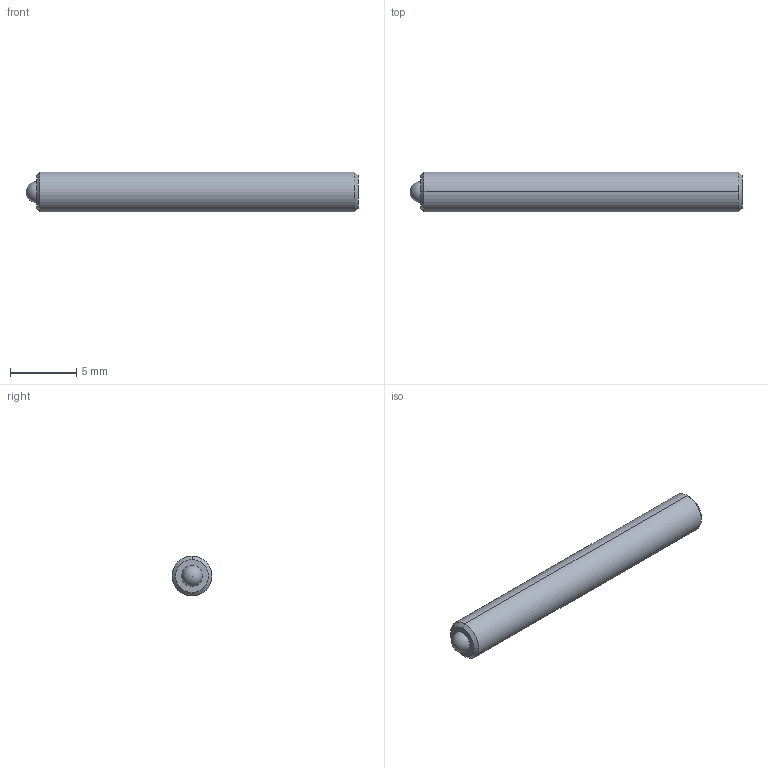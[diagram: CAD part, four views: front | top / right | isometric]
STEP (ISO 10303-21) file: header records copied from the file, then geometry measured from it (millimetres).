
FILE_DESCRIPTION (( 'STEP AP214' ), '1' );
FILE_NAME ('TS3-20-25.STEP', '2013-02-13T16:21:48', ( 'workpc' ), ( 'Microsoft' ), 'SwSTEP 2.0', 'SolidWorks 2013', '' );
FILE_SCHEMA (( 'AUTOMOTIVE_DESIGN' ));
Length unit declared in the file: millimetre
Products named in the file (1): TS3-20-25
Bounding box: 25 x 3 x 3 mm (x, y, z)
Volume: 167.1 mm3; surface area: 261.7 mm2
Topology: 2 solids, 2 shells, 20 faces, 45 edges, 29 vertices
Faces by surface type: plane 10, cylinder 4, cone 4, sphere 2
Entity records: 587 total; most frequent: DIRECTION 96, CARTESIAN_POINT 87, ORIENTED_EDGE 80, EDGE_CURVE 40, AXIS2_PLACEMENT_3D 35, VECTOR 26, LINE 26, VERTEX_POINT 26
